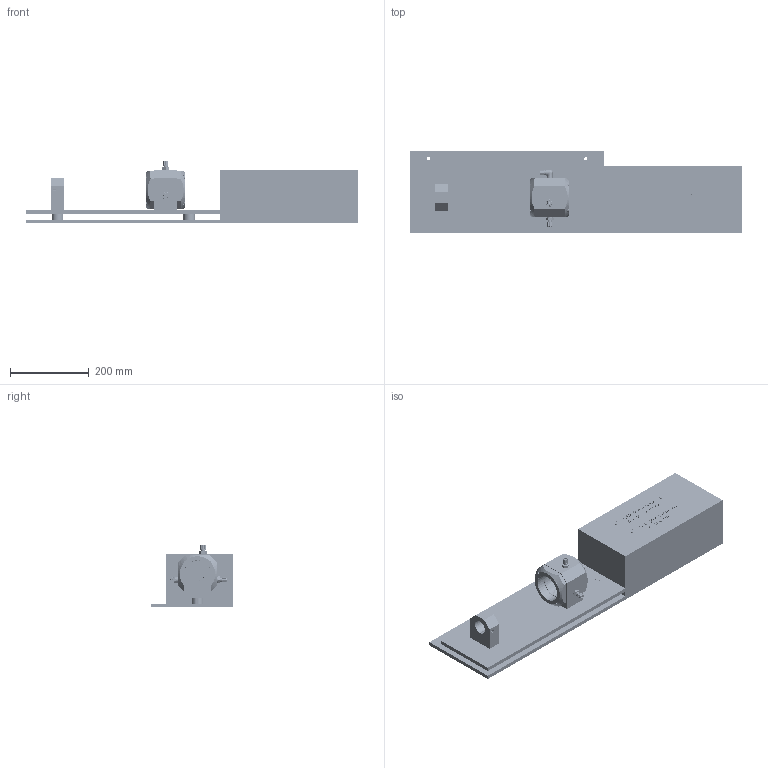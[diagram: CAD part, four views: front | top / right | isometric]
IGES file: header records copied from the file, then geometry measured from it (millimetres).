
Start section: SolidWorks IGES file using analytic representation for surfaces
Global section: file name: C:\Users\aloerke\Desktop\Arbeits-Ordner\Volker\LZX867_TD_00000__001.IGS; native system: SolidWorks 2022; preprocessor: SolidWorks 2022; author: aloerke; date: 230428.090131; units: millimetre
Bounding box: 845 x 210 x 160 mm (x, y, z)
Surface area: 827606.2 mm2 (no closed solid volume)
Topology: 0 solids, 0 shells, 3721 faces, 53580 edges, 53541 vertices
Faces by surface type: bspline 3198, revolution 523
